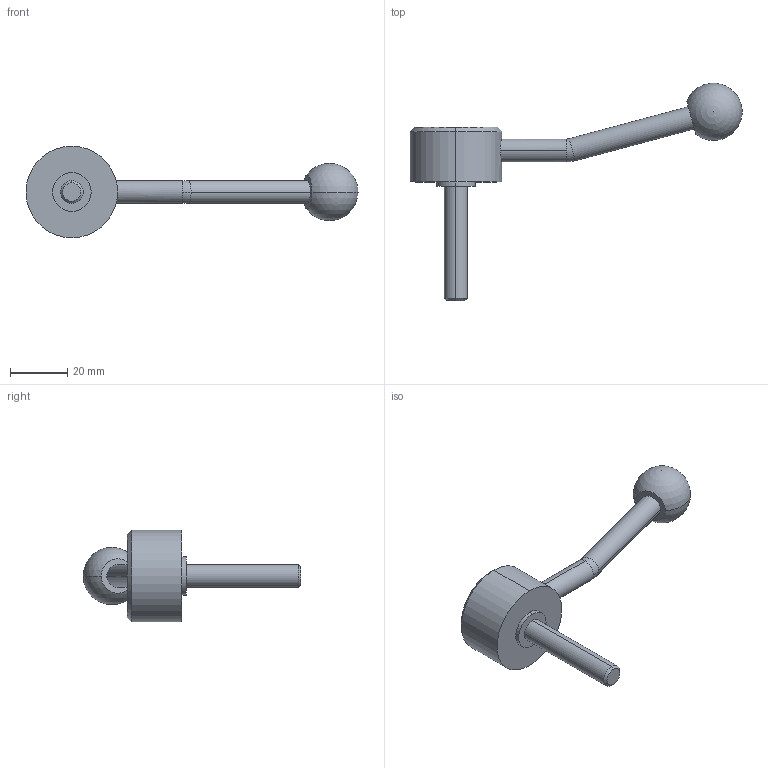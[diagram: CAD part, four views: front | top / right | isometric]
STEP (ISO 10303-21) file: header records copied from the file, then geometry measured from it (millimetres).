
FILE_DESCRIPTION (( 'STEP AP214' ), '1' );
FILE_NAME ('125.5-32-M8-40-E.step', '2020-02-18T11:26:44', ( '' ), ( '' ), 'SwSTEP 2.0', 'SolidWorks 2019', '' );
FILE_SCHEMA (( 'AUTOMOTIVE_DESIGN' ));
Length unit declared in the file: millimetre
Products named in the file (1): 125.5-32-M8-40-E
Bounding box: 115.96 x 76 x 32 mm (x, y, z)
Volume: 24949.5 mm3; surface area: 7347 mm2
Topology: 1 solids, 1 shells, 26 faces, 57 edges, 36 vertices
Faces by surface type: cylinder 12, plane 6, cone 4, torus 2, sphere 2
Entity records: 852 total; most frequent: CARTESIAN_POINT 178, DIRECTION 138, ORIENTED_EDGE 104, AXIS2_PLACEMENT_3D 61, EDGE_CURVE 52, CIRCLE 34, VERTEX_POINT 33, EDGE_LOOP 31
